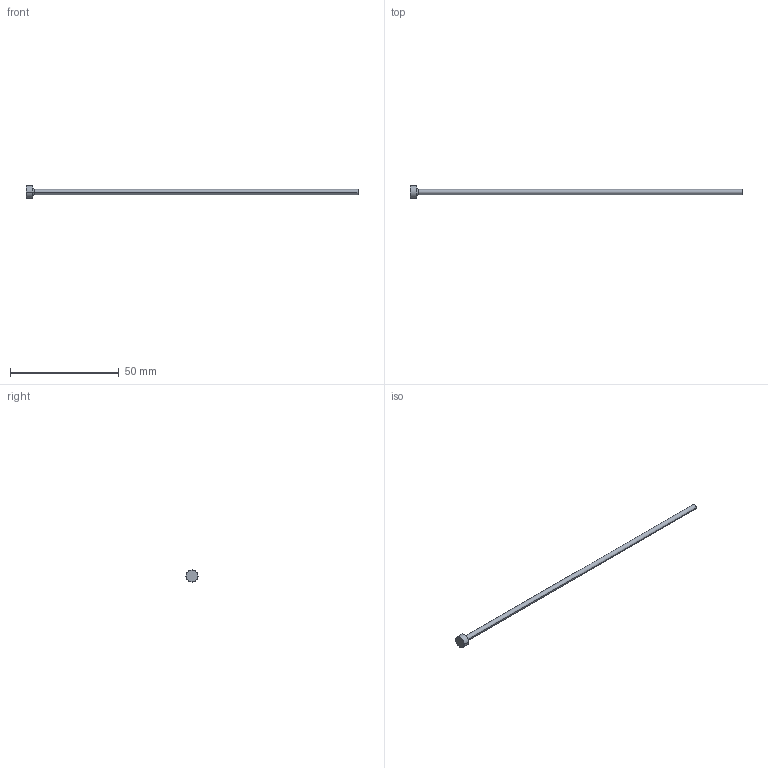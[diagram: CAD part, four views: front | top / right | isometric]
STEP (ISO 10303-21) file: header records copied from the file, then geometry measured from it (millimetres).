
FILE_DESCRIPTION (( 'STEP AP214' ), '1' );
FILE_NAME ('P7-6.STEP', '2020-03-11T17:10:26', ( '' ), ( '' ), 'SwSTEP 2.0', 'SolidWorks 2018', '' );
FILE_SCHEMA (( 'AUTOMOTIVE_DESIGN' ));
Length unit declared in the file: inch
Products named in the file (1): P7-6
Bounding box: 152.4 x 5.56 x 5.56 mm (x, y, z)
Volume: 738.2 mm3; surface area: 1212.4 mm2
Topology: 1 solids, 1 shells, 13 faces, 24 edges, 14 vertices
Faces by surface type: cone 4, cylinder 4, plane 3, torus 2
Entity records: 366 total; most frequent: DIRECTION 68, CARTESIAN_POINT 52, ORIENTED_EDGE 48, AXIS2_PLACEMENT_3D 30, EDGE_CURVE 24, CIRCLE 16, EDGE_LOOP 14, VERTEX_POINT 14
